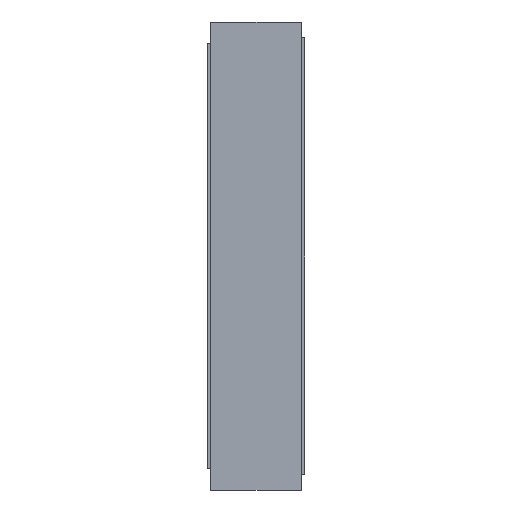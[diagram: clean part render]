
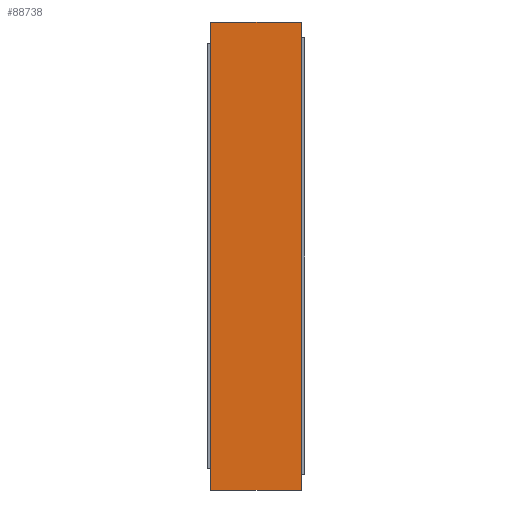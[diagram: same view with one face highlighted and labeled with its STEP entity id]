
A CAD part, left-side view. The second image highlights one B-rep face of the part: STEP entity #88738.
In plain terms, the highlighted planar face has unit normal (-1, 0, 0).
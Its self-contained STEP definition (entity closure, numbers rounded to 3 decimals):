
#9570 = LINE ( 'NONE', #64956, #12921 ) ;
#9652 = CARTESIAN_POINT ( 'NONE',  ( -276.48, 0.85, -2.2 ) ) ;
#9944 = VERTEX_POINT ( 'NONE', #21667 ) ;
#10733 = DIRECTION ( 'NONE',  ( 0., -1., 0. ) ) ;
#11693 = VECTOR ( 'NONE', #62030, 1000. ) ;
#12921 = VECTOR ( 'NONE', #36252, 1000. ) ;
#15027 = VERTEX_POINT ( 'NONE', #31355 ) ;
#18037 = CARTESIAN_POINT ( 'NONE',  ( -276.48, 0.85, 2.2 ) ) ;
#19816 = ORIENTED_EDGE ( 'NONE', *, *, #68257, .F. ) ;
#21647 = VERTEX_POINT ( 'NONE', #27118 ) ;
#21667 = CARTESIAN_POINT ( 'NONE',  ( -276.48, 0.85, -2.2 ) ) ;
#27118 = CARTESIAN_POINT ( 'NONE',  ( -276.48, 0., -2.2 ) ) ;
#28957 = VECTOR ( 'NONE', #10733, 1000. ) ;
#30249 = DIRECTION ( 'NONE',  ( 0., -1., 0. ) ) ;
#31355 = CARTESIAN_POINT ( 'NONE',  ( -276.48, 0., 2.2 ) ) ;
#33294 = LINE ( 'NONE', #55021, #11693 ) ;
#35502 = ORIENTED_EDGE ( 'NONE', *, *, #86888, .F. ) ;
#36099 = AXIS2_PLACEMENT_3D ( 'NONE', #37861, #53799, #61414 ) ;
#36252 = DIRECTION ( 'NONE',  ( 0., 0., 1. ) ) ;
#37047 = FACE_OUTER_BOUND ( 'NONE', #51189, .T. ) ;
#37861 = CARTESIAN_POINT ( 'NONE',  ( -276.48, 0.85, -2.2 ) ) ;
#45463 = ORIENTED_EDGE ( 'NONE', *, *, #56215, .T. ) ;
#51189 = EDGE_LOOP ( 'NONE', ( #45463, #19816, #35502, #69420 ) ) ;
#53799 = DIRECTION ( 'NONE',  ( 1., 0., 0. ) ) ;
#55021 = CARTESIAN_POINT ( 'NONE',  ( -276.48, 0., -2.2 ) ) ;
#56215 = EDGE_CURVE ( 'NONE', #21647, #15027, #33294, .T. ) ;
#57484 = LINE ( 'NONE', #18037, #28957 ) ;
#61414 = DIRECTION ( 'NONE',  ( 0., 0., -1. ) ) ;
#62030 = DIRECTION ( 'NONE',  ( 0., 0., 1. ) ) ;
#63263 = LINE ( 'NONE', #9652, #74660 ) ;
#64845 = EDGE_CURVE ( 'NONE', #9944, #21647, #63263, .T. ) ;
#64956 = CARTESIAN_POINT ( 'NONE',  ( -276.48, 0.85, -2.2 ) ) ;
#68257 = EDGE_CURVE ( 'NONE', #83006, #15027, #57484, .T. ) ;
#69420 = ORIENTED_EDGE ( 'NONE', *, *, #64845, .T. ) ;
#74422 = CARTESIAN_POINT ( 'NONE',  ( -276.48, 0.85, 2.2 ) ) ;
#74660 = VECTOR ( 'NONE', #30249, 1000. ) ;
#81435 = PLANE ( 'NONE',  #36099 ) ;
#83006 = VERTEX_POINT ( 'NONE', #74422 ) ;
#86888 = EDGE_CURVE ( 'NONE', #9944, #83006, #9570, .T. ) ;
#88738 = ADVANCED_FACE ( 'NONE', ( #37047 ), #81435, .F. ) ;
